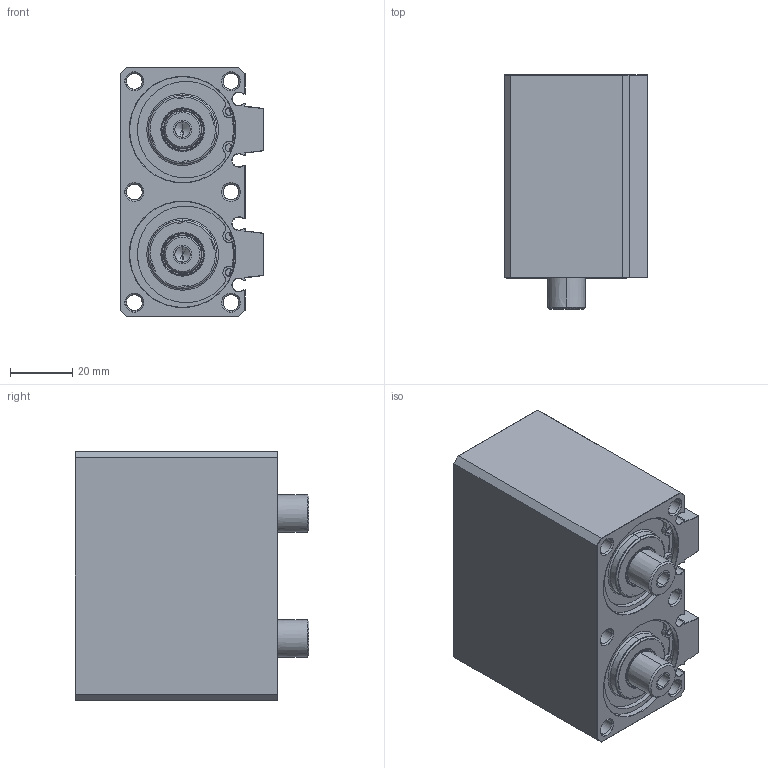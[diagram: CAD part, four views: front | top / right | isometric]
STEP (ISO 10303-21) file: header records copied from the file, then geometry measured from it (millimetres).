
FILE_DESCRIPTION((''),'2;1');
FILE_NAME('PRT0003','2014-01-18T',('yfs-01'),('foxconn'),'PRO/ENGINEER BY PARAMETRIC TECHNOLOGY CORPORATION, 2007230','PRO/ENGINEER BY PARAMETRIC TECHNOLOGY CORPORATION, 2007230','');
FILE_SCHEMA(('CONFIG_CONTROL_DESIGN'));
Products named in the file (1): PRT0003
Bounding box: 46 x 75 x 80 mm (x, y, z)
Surface area: 105495 mm2 (no closed solid volume)
Topology: 0 solids, 0 shells, 984 faces, 4480 edges, 4440 vertices
Faces by surface type: bspline 940, torus 44
Entity records: 109762 total; most frequent: CARTESIAN_POINT 69732, DIRECTION 6332, TRIMMED_CURVE 5236, DEFINITIONAL_REPRESENTATION 4404, PCURVE 4404, COMPOSITE_CURVE_SEGMENT 4404, VECTOR 4228, LINE 4228
